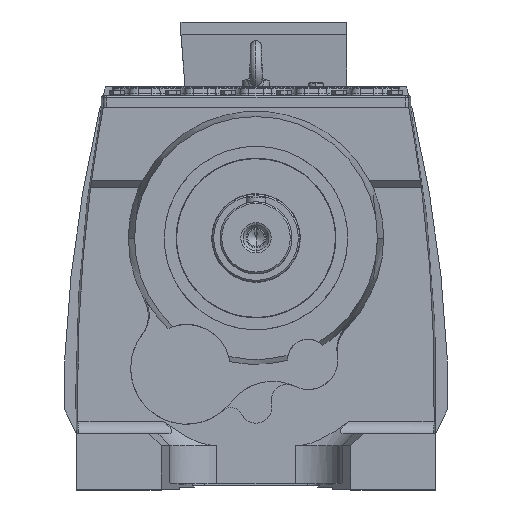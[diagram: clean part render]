
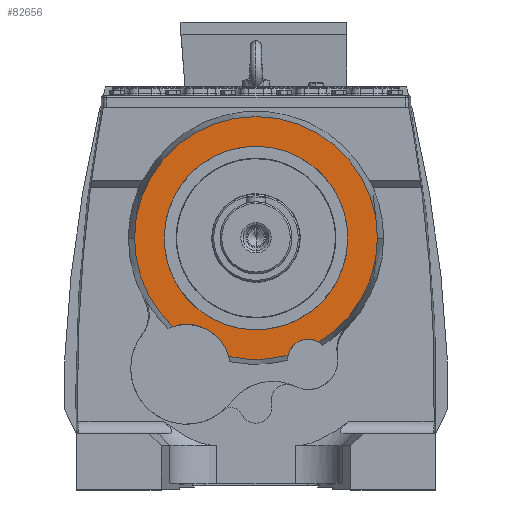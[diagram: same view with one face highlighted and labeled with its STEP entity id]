
A CAD part, top view. The second image highlights one B-rep face of the part: STEP entity #82656.
In plain terms, the highlighted planar face has unit normal (0, 0, 1).
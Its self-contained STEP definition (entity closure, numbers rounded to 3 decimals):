
#4235 = CARTESIAN_POINT ( 'NONE',  ( 115., 0., 243. ) ) ;
#4280 = CARTESIAN_POINT ( 'NONE',  ( -115., 0., 243. ) ) ;
#8337 = DIRECTION ( 'NONE',  ( 0., 0., -1. ) ) ;
#8341 = DIRECTION ( 'NONE',  ( -1., 0., 0. ) ) ;
#8347 = CARTESIAN_POINT ( 'NONE',  ( 0., 0., 243. ) ) ;
#8359 = DIRECTION ( 'NONE',  ( 0., 0., 1. ) ) ;
#8361 = CARTESIAN_POINT ( 'NONE',  ( 0., 0., 243. ) ) ;
#8389 = DIRECTION ( 'NONE',  ( -1., 0., 0. ) ) ;
#15730 = DIRECTION ( 'NONE',  ( 0., 0., -1. ) ) ;
#15735 = DIRECTION ( 'NONE',  ( -1., 0., 0. ) ) ;
#15767 = CARTESIAN_POINT ( 'NONE',  ( 65.528, -152.718, 243. ) ) ;
#15857 = CARTESIAN_POINT ( 'NONE',  ( 0., 0., 243. ) ) ;
#15889 = DIRECTION ( 'NONE',  ( 0., 0., -1. ) ) ;
#15987 = DIRECTION ( 'NONE',  ( -1., 0., 0. ) ) ;
#16102 = EDGE_CURVE ( 'NONE', #42839, #42767, #58925, .T. ) ;
#16161 = EDGE_CURVE ( 'NONE', #42767, #42788, #58930, .T. ) ;
#16498 = EDGE_CURVE ( 'NONE', #42890, #42812, #53534, .T. ) ;
#16505 = EDGE_CURVE ( 'NONE', #42957, #42943, #53504, .T. ) ;
#21745 = AXIS2_PLACEMENT_3D ( 'NONE', #8347, #8337, #8341 ) ;
#21752 = AXIS2_PLACEMENT_3D ( 'NONE', #8361, #8359, #8389 ) ;
#21944 = AXIS2_PLACEMENT_3D ( 'NONE', #83198, #83179, #83163 ) ;
#28386 = DIRECTION ( 'NONE',  ( -1., 0., 0. ) ) ;
#28447 = CARTESIAN_POINT ( 'NONE',  ( 0., 0., 243. ) ) ;
#28464 = DIRECTION ( 'NONE',  ( 0., 0., -1. ) ) ;
#28561 = CARTESIAN_POINT ( 'NONE',  ( 0., 0., 243. ) ) ;
#28568 = DIRECTION ( 'NONE',  ( 0., 0., -1. ) ) ;
#28603 = DIRECTION ( 'NONE',  ( -1., 0., 0. ) ) ;
#36551 = VERTEX_POINT ( 'NONE', #73592 ) ;
#38582 = CIRCLE ( 'NONE', #21745, 115. ) ;
#38603 = CIRCLE ( 'NONE', #21752, 152.301 ) ;
#39263 = FACE_OUTER_BOUND ( 'NONE', #45894, .T. ) ;
#39269 = FACE_BOUND ( 'NONE', #45830, .T. ) ;
#42767 = VERTEX_POINT ( 'NONE', #77364 ) ;
#42788 = VERTEX_POINT ( 'NONE', #77369 ) ;
#42812 = VERTEX_POINT ( 'NONE', #77383 ) ;
#42839 = VERTEX_POINT ( 'NONE', #77448 ) ;
#42890 = VERTEX_POINT ( 'NONE', #77459 ) ;
#42943 = VERTEX_POINT ( 'NONE', #4235 ) ;
#42957 = VERTEX_POINT ( 'NONE', #4280 ) ;
#45830 = EDGE_LOOP ( 'NONE', ( #74205, #74221 ) ) ;
#45894 = EDGE_LOOP ( 'NONE', ( #74187, #74230, #74191, #74196, #74208, #74212 ) ) ;
#52951 = EDGE_CURVE ( 'NONE', #42788, #42812, #57032, .T. ) ;
#52956 = EDGE_CURVE ( 'NONE', #42839, #36551, #57034, .T. ) ;
#53504 = CIRCLE ( 'NONE', #86085, 115. ) ;
#53534 = CIRCLE ( 'NONE', #86091, 26. ) ;
#57032 = CIRCLE ( 'NONE', #84900, 152.301 ) ;
#57034 = CIRCLE ( 'NONE', #84936, 55. ) ;
#58925 = CIRCLE ( 'NONE', #86024, 152.301 ) ;
#58930 = CIRCLE ( 'NONE', #86016, 152.301 ) ;
#64457 = EDGE_CURVE ( 'NONE', #42943, #42957, #38582, .T. ) ;
#64488 = EDGE_CURVE ( 'NONE', #36551, #42890, #38603, .T. ) ;
#73592 = CARTESIAN_POINT ( 'NONE',  ( -34.135, -148.426, 243. ) ) ;
#74187 = ORIENTED_EDGE ( 'NONE', *, *, #16102, .F. ) ;
#74191 = ORIENTED_EDGE ( 'NONE', *, *, #64488, .T. ) ;
#74196 = ORIENTED_EDGE ( 'NONE', *, *, #16498, .T. ) ;
#74205 = ORIENTED_EDGE ( 'NONE', *, *, #16505, .T. ) ;
#74208 = ORIENTED_EDGE ( 'NONE', *, *, #52951, .F. ) ;
#74212 = ORIENTED_EDGE ( 'NONE', *, *, #16161, .F. ) ;
#74221 = ORIENTED_EDGE ( 'NONE', *, *, #64457, .T. ) ;
#74230 = ORIENTED_EDGE ( 'NONE', *, *, #52956, .T. ) ;
#77364 = CARTESIAN_POINT ( 'NONE',  ( -152.301, 0., 243. ) ) ;
#77369 = CARTESIAN_POINT ( 'NONE',  ( 152.301, 0., 243. ) ) ;
#77383 = CARTESIAN_POINT ( 'NONE',  ( 78.775, -130.346, 243. ) ) ;
#77448 = CARTESIAN_POINT ( 'NONE',  ( -104.316, -110.967, 243. ) ) ;
#77459 = CARTESIAN_POINT ( 'NONE',  ( 40.186, -146.904, 243. ) ) ;
#78617 = DIRECTION ( 'NONE',  ( -1., 0., 0. ) ) ;
#78642 = DIRECTION ( 'NONE',  ( 0., 0., -1. ) ) ;
#78659 = CARTESIAN_POINT ( 'NONE',  ( 0., 0., 243. ) ) ;
#78672 = DIRECTION ( 'NONE',  ( -1., 0., 0. ) ) ;
#78698 = DIRECTION ( 'NONE',  ( 0., 0., -1. ) ) ;
#78703 = CARTESIAN_POINT ( 'NONE',  ( -87.112, -163.207, 243. ) ) ;
#82656 = ADVANCED_FACE ( 'NONE', ( #39263, #39269 ), #83162, .T. ) ;
#83162 = PLANE ( 'NONE',  #21944 ) ;
#83163 = DIRECTION ( 'NONE',  ( 1., 0., 0. ) ) ;
#83179 = DIRECTION ( 'NONE',  ( 0., 0., 1. ) ) ;
#83198 = CARTESIAN_POINT ( 'NONE',  ( 0., 0., 243. ) ) ;
#84900 = AXIS2_PLACEMENT_3D ( 'NONE', #78659, #78642, #78617 ) ;
#84936 = AXIS2_PLACEMENT_3D ( 'NONE', #78703, #78698, #78672 ) ;
#86016 = AXIS2_PLACEMENT_3D ( 'NONE', #28561, #28568, #28603 ) ;
#86024 = AXIS2_PLACEMENT_3D ( 'NONE', #28447, #28464, #28386 ) ;
#86085 = AXIS2_PLACEMENT_3D ( 'NONE', #15857, #15889, #15987 ) ;
#86091 = AXIS2_PLACEMENT_3D ( 'NONE', #15767, #15730, #15735 ) ;
